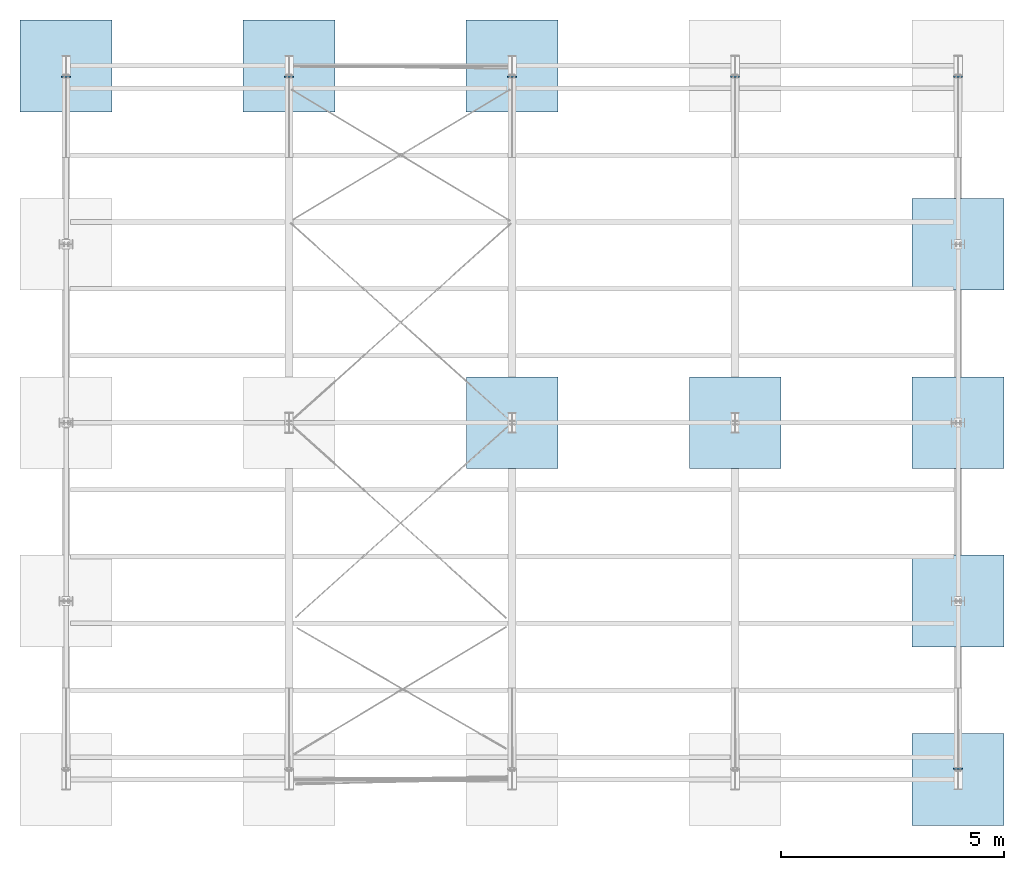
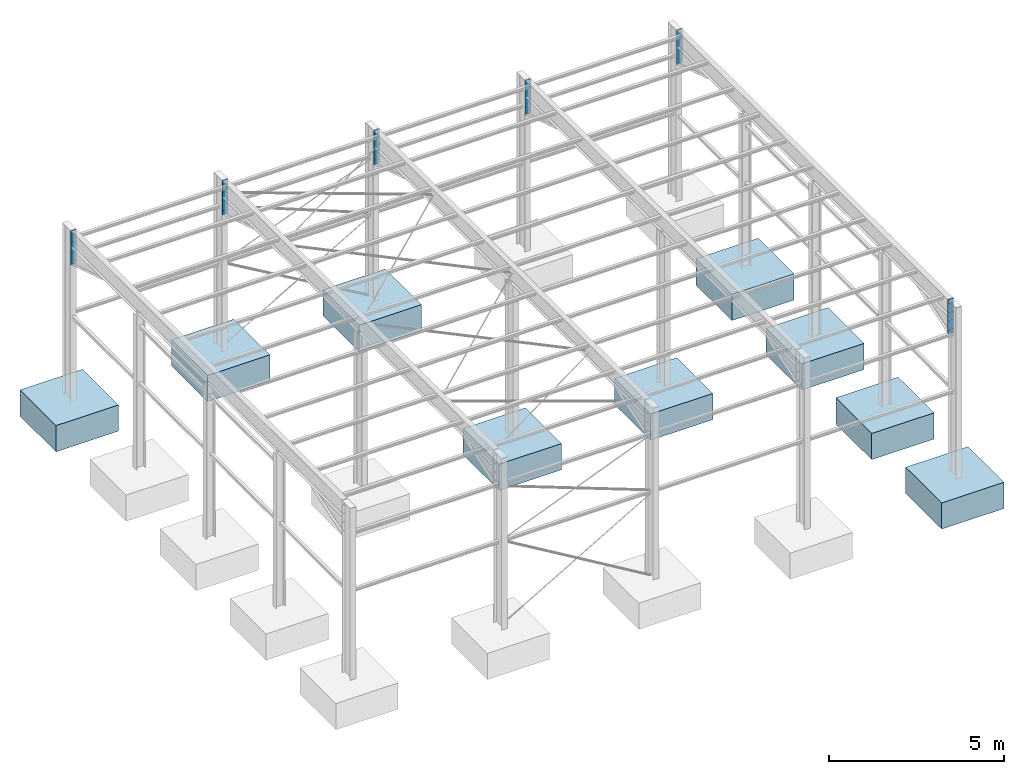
# Not in any storey, part 6 of 51: 9 slabs, 7 plates, 56 openings.
"""IFC4 model written with IfcOpenShell, lengths in feet."""

from ifc_helpers import new_model, entity, si_unit, converted_unit, direction, frame, origin, origin_with_axes, origin_2d_with_axis, place, context, subcontext, project, spatial, polyline, indexed_curve, circle, outline, extrude, material, layer, layer_set, type_object, element, save


model = new_model("IFC4")

# Units and contexts
model_context = context("Model", 3, precision=0.0001, world=origin(), true_north=direction((6.123233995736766e-17, 1.0)))
body_context = subcontext(model_context, "Body", "Model", "MODEL_VIEW")
ifc_project = project(units=[converted_unit("LENGTHUNIT", "FOOT", entity("IfcLengthMeasure", 0.3048), si_unit("LENGTHUNIT", "METRE"), dimensions=[1, 0, 0, 0, 0, 0, 0]), converted_unit("AREAUNIT", "SQUARE INCH", entity("IfcAreaMeasure", 0.0006451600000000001), si_unit("AREAUNIT", "SQUARE_METRE"), dimensions=[2, 0, 0, 0, 0, 0, 0]), converted_unit("PLANEANGLEUNIT", "DEGREE", entity("IfcPlaneAngleMeasure", 0.017453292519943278), si_unit("PLANEANGLEUNIT", "RADIAN"), dimensions=[0, 0, 0, 0, 0, 0, 0]), si_unit("VOLUMEUNIT", "CUBIC_METRE")], contexts=[model_context])

# Site
site_placement = place(None, origin())
site = spatial("IfcSite", under=ifc_project, at=site_placement, Name="Default", CompositionType="ELEMENT")

# Slabs
ifc_material_1 = material(Name="Concrete, Cast-in-Place gray", Category="Concrete")
slab_type = type_object("IfcSlabType", Name="Pile Cap-Rectangular:81\" x 81\" x 36\"", PredefinedType="BASESLAB", material=ifc_material_1)
slab_1_placement = place(site_placement, origin())
element("IfcSlab", 1, at=slab_1_placement, inside=site, type_object=slab_type, Name="Pile Cap-Rectangular:81\" x 81\" x 36\"", ObjectType="Pile Cap-Rectangular:81\" x 81\" x 36\"", PredefinedType="BASESLAB", context=body_context, shape_type="SweptSolid", body=[
    extrude(outline(indexed_curve([(-3.375, -3.375), (3.375, -3.375), (3.375, 3.375), (-3.375, 3.375), (-3.375, -3.375)], self_intersect=False)), frame((11.2383168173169, 57.94845552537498, -3.0), z_axis=(0.0, 0.0, 1.0), x_axis=(-1.0, 0.0, 0.0)), (0.0, 0.0, 1.0), 3.0),
])
slab_2_placement = place(site_placement, origin())
element("IfcSlab", 2, at=slab_2_placement, inside=site, type_object=slab_type, Name="Pile Cap-Rectangular:81\" x 81\" x 36\"", ObjectType="Pile Cap-Rectangular:81\" x 81\" x 36\"", PredefinedType="BASESLAB", context=body_context, shape_type="SweptSolid", body=[
    extrude(outline(indexed_curve([(-3.375, -3.375), (3.375, -3.375), (3.375, 3.375), (-3.375, 3.375), (-3.375, -3.375)], self_intersect=False)), frame((27.657936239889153, 57.94845552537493, -3.0), z_axis=(0.0, 0.0, 1.0), x_axis=(-1.0, 0.0, 0.0)), (0.0, 0.0, 1.0), 3.0),
])
slab_3_placement = place(site_placement, origin())
element("IfcSlab", 3, at=slab_3_placement, inside=site, type_object=slab_type, Name="Pile Cap-Rectangular:81\" x 81\" x 36\"", ObjectType="Pile Cap-Rectangular:81\" x 81\" x 36\"", PredefinedType="BASESLAB", context=body_context, shape_type="SweptSolid", body=[
    extrude(outline(indexed_curve([(-3.375, -3.375), (3.375, -3.375), (3.375, 3.375), (-3.375, 3.375), (-3.375, -3.375)], self_intersect=False)), frame((44.06213571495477, 57.94845552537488, -3.0), z_axis=(0.0, 0.0, 1.0), x_axis=(-1.0, 0.0, 0.0)), (0.0, 0.0, 1.0), 3.0),
])
slab_4_placement = place(site_placement, origin())
element("IfcSlab", 4, at=slab_4_placement, inside=site, type_object=slab_type, Name="Pile Cap-Rectangular:81\" x 81\" x 36\"", ObjectType="Pile Cap-Rectangular:81\" x 81\" x 36\"", PredefinedType="BASESLAB", context=body_context, shape_type="SweptSolid", body=[
    extrude(outline(indexed_curve([(-3.375, -3.375), (3.375, -3.375), (3.375, 3.374999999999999), (-3.375, 3.374999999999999), (-3.375, -3.375)], self_intersect=False)), frame((76.87053466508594, 5.455017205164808, -3.0), z_axis=(0.0, 0.0, 1.0), x_axis=(-1.0, 0.0, 0.0)), (0.0, 0.0, 1.0), 3.0),
])
slab_5_placement = place(site_placement, origin())
element("IfcSlab", 5, at=slab_5_placement, inside=site, type_object=slab_type, Name="Pile Cap-Rectangular:81\" x 81\" x 36\"", ObjectType="Pile Cap-Rectangular:81\" x 81\" x 36\"", PredefinedType="BASESLAB", context=body_context, shape_type="SweptSolid", body=[
    extrude(outline(indexed_curve([(-3.375, -3.375), (3.375, -3.375), (3.375, 3.375), (-3.375, 3.375), (-3.375, -3.375)], self_intersect=False)), frame((76.870534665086, 44.82509594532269, -3.0), z_axis=(0.0, 0.0, 1.0), x_axis=(-1.0, 0.0, 0.0)), (0.0, 0.0, 1.0), 3.0),
])
slab_6_placement = place(site_placement, origin())
element("IfcSlab", 6, at=slab_6_placement, inside=site, type_object=slab_type, Name="Pile Cap-Rectangular:81\" x 81\" x 36\"", ObjectType="Pile Cap-Rectangular:81\" x 81\" x 36\"", PredefinedType="BASESLAB", context=body_context, shape_type="SweptSolid", body=[
    extrude(outline(indexed_curve([(-3.375, -3.375), (3.375, -3.375), (3.375, 3.375), (-3.375, 3.375), (-3.375, -3.375)], self_intersect=False)), frame((76.87053466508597, 31.701736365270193, -3.0), z_axis=(0.0, 0.0, 1.0), x_axis=(-1.0, 0.0, 0.0)), (0.0, 0.0, 1.0), 3.0),
])
slab_7_placement = place(site_placement, origin())
element("IfcSlab", 7, at=slab_7_placement, inside=site, type_object=slab_type, Name="Pile Cap-Rectangular:81\" x 81\" x 36\"", ObjectType="Pile Cap-Rectangular:81\" x 81\" x 36\"", PredefinedType="BASESLAB", context=body_context, shape_type="SweptSolid", body=[
    extrude(outline(indexed_curve([(-3.375, -3.375), (3.375, -3.375), (3.375, 3.375), (-3.375, 3.375), (-3.375, -3.375)], self_intersect=False)), frame((76.87053466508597, 18.578376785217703, -3.0), z_axis=(0.0, 0.0, 1.0), x_axis=(-1.0, 0.0, 0.0)), (0.0, 0.0, 1.0), 3.0),
])
slab_8_placement = place(site_placement, origin())
element("IfcSlab", 8, at=slab_8_placement, inside=site, type_object=slab_type, Name="Pile Cap-Rectangular:81\" x 81\" x 36\"", ObjectType="Pile Cap-Rectangular:81\" x 81\" x 36\"", PredefinedType="BASESLAB", context=body_context, shape_type="SweptSolid", body=[
    extrude(outline(indexed_curve([(-3.375, -3.375), (3.375, -3.375), (3.375, 3.375), (-3.375, 3.375), (-3.375, -3.375)], self_intersect=False)), frame((44.0775556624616, 31.701736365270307, -3.0), z_axis=(0.0, 0.0, 1.0), x_axis=(-1.0, 0.0, 0.0)), (0.0, 0.0, 1.0), 3.0),
])
slab_9_placement = place(site_placement, origin())
element("IfcSlab", 9, at=slab_9_placement, inside=site, type_object=slab_type, Name="Pile Cap-Rectangular:81\" x 81\" x 36\"", ObjectType="Pile Cap-Rectangular:81\" x 81\" x 36\"", PredefinedType="BASESLAB", context=body_context, shape_type="SweptSolid", body=[
    extrude(outline(indexed_curve([(-3.375, -3.375), (3.375, -3.375), (3.375, 3.375), (-3.375, 3.375), (-3.375, -3.375)], self_intersect=False)), frame((60.481755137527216, 31.701736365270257, -3.0), z_axis=(0.0, 0.0, 1.0), x_axis=(-1.0, 0.0, 0.0)), (0.0, 0.0, 1.0), 3.0),
])

# Plate, openings
ifc_material_2 = material(Name="Dachdeckung - Blechdach")
ifc_layer = layer(ifc_material_2, 20.0)
ifc_layer_set = layer_set([ifc_layer], Name="Dachdeckung - Blechdach")
plate_1_placement = place(site_placement, frame((77.1790221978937, 6.28730066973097, 19.668635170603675), z_axis=(0.0, -1.0, 0.0), x_axis=(-1.0, 0.0, 0.0)))
plate_1 = element("IfcPlate", 10, at=plate_1_placement, inside=site, material=ifc_layer_set, Name="Endplate", ObjectType="Endplate", context=model_context, shape_type="SweptSolid", body=[
    extrude(outline(polyline([(0.0, 0.0), (0.6169750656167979, 0.0), (0.6169750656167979, 3.918766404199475), (0.0, 3.918766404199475), (0.0, 0.0)])), origin_with_axes(), (0.0, 0.0, 1.0), 0.06561679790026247),
])
opening_1_placement = place(plate_1_placement, frame((0.1626541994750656, 2.4606299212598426, 0.06725721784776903), z_axis=(0.0, 0.0, -1.0), x_axis=(1.0, 0.0, 0.0)))
element("IfcOpeningElement", 11, at=opening_1_placement, cuts=plate_1, ObjectType="Opening", context=model_context, shape_type="SweptSolid", body=[
    extrude(circle(Radius=0.03385744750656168, at=origin_2d_with_axis()), origin(), (0.0, 0.0, 1.0), 0.0688976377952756),
])
opening_2_placement = place(plate_1_placement, frame((0.4543208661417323, 2.4606299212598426, 0.06725721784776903), z_axis=(0.0, 0.0, -1.0), x_axis=(1.0, 0.0, 0.0)))
element("IfcOpeningElement", 12, at=opening_2_placement, cuts=plate_1, ObjectType="Opening", context=model_context, shape_type="SweptSolid", body=[
    extrude(circle(Radius=0.03385744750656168, at=origin_2d_with_axis()), origin(), (0.0, 0.0, 1.0), 0.0688976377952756),
])
opening_3_placement = place(plate_1_placement, frame((0.4543208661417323, 3.444881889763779, 0.06725721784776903), z_axis=(0.0, 0.0, -1.0), x_axis=(1.0, 0.0, 0.0)))
element("IfcOpeningElement", 13, at=opening_3_placement, cuts=plate_1, ObjectType="Opening", context=model_context, shape_type="SweptSolid", body=[
    extrude(circle(Radius=0.03385744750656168, at=origin_2d_with_axis()), origin(), (0.0, 0.0, 1.0), 0.0688976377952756),
])
opening_4_placement = place(plate_1_placement, frame((0.4543208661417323, 0.49212598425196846, 0.06725721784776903), z_axis=(0.0, 0.0, -1.0), x_axis=(1.0, 0.0, 0.0)))
element("IfcOpeningElement", 14, at=opening_4_placement, cuts=plate_1, ObjectType="Opening", context=model_context, shape_type="SweptSolid", body=[
    extrude(circle(Radius=0.03385744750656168, at=origin_2d_with_axis()), origin(), (0.0, 0.0, 1.0), 0.0688976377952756),
])
opening_5_placement = place(plate_1_placement, frame((0.4543208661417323, 1.4763779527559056, 0.06725721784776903), z_axis=(0.0, 0.0, -1.0), x_axis=(1.0, 0.0, 0.0)))
element("IfcOpeningElement", 15, at=opening_5_placement, cuts=plate_1, ObjectType="Opening", context=model_context, shape_type="SweptSolid", body=[
    extrude(circle(Radius=0.03385744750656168, at=origin_2d_with_axis()), origin(), (0.0, 0.0, 1.0), 0.0688976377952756),
])
opening_6_placement = place(plate_1_placement, frame((0.1626541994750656, 3.444881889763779, 0.06725721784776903), z_axis=(0.0, 0.0, -1.0), x_axis=(1.0, 0.0, 0.0)))
element("IfcOpeningElement", 16, at=opening_6_placement, cuts=plate_1, ObjectType="Opening", context=model_context, shape_type="SweptSolid", body=[
    extrude(circle(Radius=0.03385744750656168, at=origin_2d_with_axis()), origin(), (0.0, 0.0, 1.0), 0.0688976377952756),
])
opening_7_placement = place(plate_1_placement, frame((0.1626541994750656, 1.4763779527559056, 0.06725721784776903), z_axis=(0.0, 0.0, -1.0), x_axis=(1.0, 0.0, 0.0)))
element("IfcOpeningElement", 17, at=opening_7_placement, cuts=plate_1, ObjectType="Opening", context=model_context, shape_type="SweptSolid", body=[
    extrude(circle(Radius=0.03385744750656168, at=origin_2d_with_axis()), origin(), (0.0, 0.0, 1.0), 0.0688976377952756),
])
opening_8_placement = place(plate_1_placement, frame((0.1626541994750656, 0.49212598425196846, 0.06725721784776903), z_axis=(0.0, 0.0, -1.0), x_axis=(1.0, 0.0, 0.0)))
element("IfcOpeningElement", 18, at=opening_8_placement, cuts=plate_1, ObjectType="Opening", context=model_context, shape_type="SweptSolid", body=[
    extrude(circle(Radius=0.03385744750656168, at=origin_2d_with_axis()), origin(), (0.0, 0.0, 1.0), 0.0688976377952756),
])

plate_2_placement = place(site_placement, frame((27.349448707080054, 57.11617206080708, 19.668635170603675), z_axis=(0.0, 1.0, 0.0), x_axis=(1.0, 0.0, 0.0)))
plate_2 = element("IfcPlate", 19, at=plate_2_placement, inside=site, material=ifc_layer_set, Name="Endplate", ObjectType="Endplate", context=model_context, shape_type="SweptSolid", body=[
    extrude(outline(polyline([(0.0, 0.0), (0.6169750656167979, 0.0), (0.6169750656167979, 3.918766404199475), (0.0, 3.918766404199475), (0.0, 0.0)])), origin_with_axes(), (0.0, 0.0, 1.0), 0.06561679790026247),
])
opening_9_placement = place(plate_2_placement, frame((0.4543208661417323, 3.444881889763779, 0.06725721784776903), z_axis=(0.0, 0.0, -1.0), x_axis=(1.0, 0.0, 0.0)))
element("IfcOpeningElement", 20, at=opening_9_placement, cuts=plate_2, ObjectType="Opening", context=model_context, shape_type="SweptSolid", body=[
    extrude(circle(Radius=0.03385744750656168, at=origin_2d_with_axis()), origin(), (0.0, 0.0, 1.0), 0.0688976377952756),
])
opening_10_placement = place(plate_2_placement, frame((0.1626541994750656, 2.4606299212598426, 0.06725721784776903), z_axis=(0.0, 0.0, -1.0), x_axis=(1.0, 0.0, 0.0)))
element("IfcOpeningElement", 21, at=opening_10_placement, cuts=plate_2, ObjectType="Opening", context=model_context, shape_type="SweptSolid", body=[
    extrude(circle(Radius=0.03385744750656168, at=origin_2d_with_axis()), origin(), (0.0, 0.0, 1.0), 0.0688976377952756),
])
opening_11_placement = place(plate_2_placement, frame((0.4543208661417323, 2.4606299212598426, 0.06725721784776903), z_axis=(0.0, 0.0, -1.0), x_axis=(1.0, 0.0, 0.0)))
element("IfcOpeningElement", 22, at=opening_11_placement, cuts=plate_2, ObjectType="Opening", context=model_context, shape_type="SweptSolid", body=[
    extrude(circle(Radius=0.03385744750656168, at=origin_2d_with_axis()), origin(), (0.0, 0.0, 1.0), 0.0688976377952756),
])
opening_12_placement = place(plate_2_placement, frame((0.4543208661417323, 1.4763779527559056, 0.06725721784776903), z_axis=(0.0, 0.0, -1.0), x_axis=(1.0, 0.0, 0.0)))
element("IfcOpeningElement", 23, at=opening_12_placement, cuts=plate_2, ObjectType="Opening", context=model_context, shape_type="SweptSolid", body=[
    extrude(circle(Radius=0.03385744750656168, at=origin_2d_with_axis()), origin(), (0.0, 0.0, 1.0), 0.0688976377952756),
])
opening_13_placement = place(plate_2_placement, frame((0.1626541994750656, 1.4763779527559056, 0.06725721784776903), z_axis=(0.0, 0.0, -1.0), x_axis=(1.0, 0.0, 0.0)))
element("IfcOpeningElement", 24, at=opening_13_placement, cuts=plate_2, ObjectType="Opening", context=model_context, shape_type="SweptSolid", body=[
    extrude(circle(Radius=0.03385744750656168, at=origin_2d_with_axis()), origin(), (0.0, 0.0, 1.0), 0.0688976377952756),
])
opening_14_placement = place(plate_2_placement, frame((0.4543208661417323, 0.49212598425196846, 0.06725721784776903), z_axis=(0.0, 0.0, -1.0), x_axis=(1.0, 0.0, 0.0)))
element("IfcOpeningElement", 25, at=opening_14_placement, cuts=plate_2, ObjectType="Opening", context=model_context, shape_type="SweptSolid", body=[
    extrude(circle(Radius=0.03385744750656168, at=origin_2d_with_axis()), origin(), (0.0, 0.0, 1.0), 0.0688976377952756),
])
opening_15_placement = place(plate_2_placement, frame((0.1626541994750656, 0.49212598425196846, 0.06725721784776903), z_axis=(0.0, 0.0, -1.0), x_axis=(1.0, 0.0, 0.0)))
element("IfcOpeningElement", 26, at=opening_15_placement, cuts=plate_2, ObjectType="Opening", context=model_context, shape_type="SweptSolid", body=[
    extrude(circle(Radius=0.03385744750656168, at=origin_2d_with_axis()), origin(), (0.0, 0.0, 1.0), 0.0688976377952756),
])
opening_16_placement = place(plate_2_placement, frame((0.1626541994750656, 3.444881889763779, 0.06725721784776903), z_axis=(0.0, 0.0, -1.0), x_axis=(1.0, 0.0, 0.0)))
element("IfcOpeningElement", 27, at=opening_16_placement, cuts=plate_2, ObjectType="Opening", context=model_context, shape_type="SweptSolid", body=[
    extrude(circle(Radius=0.03385744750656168, at=origin_2d_with_axis()), origin(), (0.0, 0.0, 1.0), 0.0688976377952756),
])

plate_3_placement = place(site_placement, frame((43.75364818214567, 57.11617206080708, 19.668635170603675), z_axis=(0.0, 1.0, 0.0), x_axis=(1.0, 0.0, 0.0)))
plate_3 = element("IfcPlate", 28, at=plate_3_placement, inside=site, material=ifc_layer_set, Name="Endplate", ObjectType="Endplate", context=model_context, shape_type="SweptSolid", body=[
    extrude(outline(polyline([(0.0, 0.0), (0.6169750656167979, 0.0), (0.6169750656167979, 3.918766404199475), (0.0, 3.918766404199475), (0.0, 0.0)])), origin_with_axes(), (0.0, 0.0, 1.0), 0.06561679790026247),
])
opening_17_placement = place(plate_3_placement, frame((0.4543208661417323, 2.4606299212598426, 0.06725721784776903), z_axis=(0.0, 0.0, -1.0), x_axis=(1.0, 0.0, 0.0)))
element("IfcOpeningElement", 29, at=opening_17_placement, cuts=plate_3, ObjectType="Opening", context=model_context, shape_type="SweptSolid", body=[
    extrude(circle(Radius=0.03385744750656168, at=origin_2d_with_axis()), origin(), (0.0, 0.0, 1.0), 0.0688976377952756),
])
opening_18_placement = place(plate_3_placement, frame((0.4543208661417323, 0.49212598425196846, 0.06725721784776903), z_axis=(0.0, 0.0, -1.0), x_axis=(1.0, 0.0, 0.0)))
element("IfcOpeningElement", 30, at=opening_18_placement, cuts=plate_3, ObjectType="Opening", context=model_context, shape_type="SweptSolid", body=[
    extrude(circle(Radius=0.03385744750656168, at=origin_2d_with_axis()), origin(), (0.0, 0.0, 1.0), 0.0688976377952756),
])
opening_19_placement = place(plate_3_placement, frame((0.1626541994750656, 3.444881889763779, 0.06725721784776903), z_axis=(0.0, 0.0, -1.0), x_axis=(1.0, 0.0, 0.0)))
element("IfcOpeningElement", 31, at=opening_19_placement, cuts=plate_3, ObjectType="Opening", context=model_context, shape_type="SweptSolid", body=[
    extrude(circle(Radius=0.03385744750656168, at=origin_2d_with_axis()), origin(), (0.0, 0.0, 1.0), 0.0688976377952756),
])
opening_20_placement = place(plate_3_placement, frame((0.1626541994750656, 1.4763779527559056, 0.06725721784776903), z_axis=(0.0, 0.0, -1.0), x_axis=(1.0, 0.0, 0.0)))
element("IfcOpeningElement", 32, at=opening_20_placement, cuts=plate_3, ObjectType="Opening", context=model_context, shape_type="SweptSolid", body=[
    extrude(circle(Radius=0.03385744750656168, at=origin_2d_with_axis()), origin(), (0.0, 0.0, 1.0), 0.0688976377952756),
])
opening_21_placement = place(plate_3_placement, frame((0.1626541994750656, 0.49212598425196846, 0.06725721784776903), z_axis=(0.0, 0.0, -1.0), x_axis=(1.0, 0.0, 0.0)))
element("IfcOpeningElement", 33, at=opening_21_placement, cuts=plate_3, ObjectType="Opening", context=model_context, shape_type="SweptSolid", body=[
    extrude(circle(Radius=0.03385744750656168, at=origin_2d_with_axis()), origin(), (0.0, 0.0, 1.0), 0.0688976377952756),
])
opening_22_placement = place(plate_3_placement, frame((0.1626541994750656, 2.4606299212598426, 0.06725721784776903), z_axis=(0.0, 0.0, -1.0), x_axis=(1.0, 0.0, 0.0)))
element("IfcOpeningElement", 34, at=opening_22_placement, cuts=plate_3, ObjectType="Opening", context=model_context, shape_type="SweptSolid", body=[
    extrude(circle(Radius=0.03385744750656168, at=origin_2d_with_axis()), origin(), (0.0, 0.0, 1.0), 0.0688976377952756),
])
opening_23_placement = place(plate_3_placement, frame((0.4543208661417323, 3.444881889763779, 0.06725721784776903), z_axis=(0.0, 0.0, -1.0), x_axis=(1.0, 0.0, 0.0)))
element("IfcOpeningElement", 35, at=opening_23_placement, cuts=plate_3, ObjectType="Opening", context=model_context, shape_type="SweptSolid", body=[
    extrude(circle(Radius=0.03385744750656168, at=origin_2d_with_axis()), origin(), (0.0, 0.0, 1.0), 0.0688976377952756),
])
opening_24_placement = place(plate_3_placement, frame((0.4543208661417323, 1.4763779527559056, 0.06725721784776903), z_axis=(0.0, 0.0, -1.0), x_axis=(1.0, 0.0, 0.0)))
element("IfcOpeningElement", 36, at=opening_24_placement, cuts=plate_3, ObjectType="Opening", context=model_context, shape_type="SweptSolid", body=[
    extrude(circle(Radius=0.03385744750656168, at=origin_2d_with_axis()), origin(), (0.0, 0.0, 1.0), 0.0688976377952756),
])

plate_4_placement = place(site_placement, frame((60.157847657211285, 57.11617206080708, 19.668635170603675), z_axis=(0.0, 1.0, 0.0), x_axis=(1.0, 0.0, 0.0)))
plate_4 = element("IfcPlate", 37, at=plate_4_placement, inside=site, material=ifc_layer_set, Name="Endplate", ObjectType="Endplate", context=model_context, shape_type="SweptSolid", body=[
    extrude(outline(polyline([(0.0, 0.0), (0.6169750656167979, 0.0), (0.6169750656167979, 3.918766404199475), (0.0, 3.918766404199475), (0.0, 0.0)])), origin_with_axes(), (0.0, 0.0, 1.0), 0.06561679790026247),
])
opening_25_placement = place(plate_4_placement, frame((0.1626541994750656, 1.4763779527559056, 0.06725721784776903), z_axis=(0.0, 0.0, -1.0), x_axis=(1.0, 0.0, 0.0)))
element("IfcOpeningElement", 38, at=opening_25_placement, cuts=plate_4, ObjectType="Opening", context=model_context, shape_type="SweptSolid", body=[
    extrude(circle(Radius=0.03385744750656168, at=origin_2d_with_axis()), origin(), (0.0, 0.0, 1.0), 0.0688976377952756),
])
opening_26_placement = place(plate_4_placement, frame((0.4543208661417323, 2.4606299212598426, 0.06725721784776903), z_axis=(0.0, 0.0, -1.0), x_axis=(1.0, 0.0, 0.0)))
element("IfcOpeningElement", 39, at=opening_26_placement, cuts=plate_4, ObjectType="Opening", context=model_context, shape_type="SweptSolid", body=[
    extrude(circle(Radius=0.03385744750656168, at=origin_2d_with_axis()), origin(), (0.0, 0.0, 1.0), 0.0688976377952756),
])
opening_27_placement = place(plate_4_placement, frame((0.4543208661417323, 3.444881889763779, 0.06725721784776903), z_axis=(0.0, 0.0, -1.0), x_axis=(1.0, 0.0, 0.0)))
element("IfcOpeningElement", 40, at=opening_27_placement, cuts=plate_4, ObjectType="Opening", context=model_context, shape_type="SweptSolid", body=[
    extrude(circle(Radius=0.03385744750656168, at=origin_2d_with_axis()), origin(), (0.0, 0.0, 1.0), 0.0688976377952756),
])
opening_28_placement = place(plate_4_placement, frame((0.1626541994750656, 0.49212598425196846, 0.06725721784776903), z_axis=(0.0, 0.0, -1.0), x_axis=(1.0, 0.0, 0.0)))
element("IfcOpeningElement", 41, at=opening_28_placement, cuts=plate_4, ObjectType="Opening", context=model_context, shape_type="SweptSolid", body=[
    extrude(circle(Radius=0.03385744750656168, at=origin_2d_with_axis()), origin(), (0.0, 0.0, 1.0), 0.0688976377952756),
])
opening_29_placement = place(plate_4_placement, frame((0.1626541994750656, 3.444881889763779, 0.06725721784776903), z_axis=(0.0, 0.0, -1.0), x_axis=(1.0, 0.0, 0.0)))
element("IfcOpeningElement", 42, at=opening_29_placement, cuts=plate_4, ObjectType="Opening", context=model_context, shape_type="SweptSolid", body=[
    extrude(circle(Radius=0.03385744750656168, at=origin_2d_with_axis()), origin(), (0.0, 0.0, 1.0), 0.0688976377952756),
])
opening_30_placement = place(plate_4_placement, frame((0.4543208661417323, 0.49212598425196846, 0.06725721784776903), z_axis=(0.0, 0.0, -1.0), x_axis=(1.0, 0.0, 0.0)))
element("IfcOpeningElement", 43, at=opening_30_placement, cuts=plate_4, ObjectType="Opening", context=model_context, shape_type="SweptSolid", body=[
    extrude(circle(Radius=0.03385744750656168, at=origin_2d_with_axis()), origin(), (0.0, 0.0, 1.0), 0.0688976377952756),
])
opening_31_placement = place(plate_4_placement, frame((0.1626541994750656, 2.4606299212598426, 0.06725721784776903), z_axis=(0.0, 0.0, -1.0), x_axis=(1.0, 0.0, 0.0)))
element("IfcOpeningElement", 44, at=opening_31_placement, cuts=plate_4, ObjectType="Opening", context=model_context, shape_type="SweptSolid", body=[
    extrude(circle(Radius=0.03385744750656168, at=origin_2d_with_axis()), origin(), (0.0, 0.0, 1.0), 0.0688976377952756),
])
opening_32_placement = place(plate_4_placement, frame((0.4543208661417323, 1.4763779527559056, 0.06725721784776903), z_axis=(0.0, 0.0, -1.0), x_axis=(1.0, 0.0, 0.0)))
element("IfcOpeningElement", 45, at=opening_32_placement, cuts=plate_4, ObjectType="Opening", context=model_context, shape_type="SweptSolid", body=[
    extrude(circle(Radius=0.03385744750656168, at=origin_2d_with_axis()), origin(), (0.0, 0.0, 1.0), 0.0688976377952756),
])

plate_5_placement = place(site_placement, frame((77.1790221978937, 6.28730066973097, 19.668635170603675), z_axis=(0.0, -1.0, 0.0), x_axis=(-1.0, 0.0, 0.0)))
plate_5 = element("IfcPlate", 46, at=plate_5_placement, inside=site, material=ifc_layer_set, Name="Endplate", ObjectType="Endplate", context=model_context, shape_type="SweptSolid", body=[
    extrude(outline(polyline([(0.0, 0.0), (0.6169750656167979, 0.0), (0.6169750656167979, 3.918766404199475), (0.0, 3.918766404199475), (0.0, 0.0)])), origin_with_axes(), (0.0, 0.0, 1.0), 0.06561679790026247),
])
opening_33_placement = place(plate_5_placement, frame((0.4543208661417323, 1.4763779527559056, 0.06725721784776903), z_axis=(0.0, 0.0, -1.0), x_axis=(1.0, 0.0, 0.0)))
element("IfcOpeningElement", 47, at=opening_33_placement, cuts=plate_5, ObjectType="Opening", context=model_context, shape_type="SweptSolid", body=[
    extrude(circle(Radius=0.03385744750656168, at=origin_2d_with_axis()), origin(), (0.0, 0.0, 1.0), 0.0688976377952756),
])
opening_34_placement = place(plate_5_placement, frame((0.1626541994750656, 1.4763779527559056, 0.06725721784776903), z_axis=(0.0, 0.0, -1.0), x_axis=(1.0, 0.0, 0.0)))
element("IfcOpeningElement", 48, at=opening_34_placement, cuts=plate_5, ObjectType="Opening", context=model_context, shape_type="SweptSolid", body=[
    extrude(circle(Radius=0.03385744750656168, at=origin_2d_with_axis()), origin(), (0.0, 0.0, 1.0), 0.0688976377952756),
])
opening_35_placement = place(plate_5_placement, frame((0.1626541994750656, 0.49212598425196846, 0.06725721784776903), z_axis=(0.0, 0.0, -1.0), x_axis=(1.0, 0.0, 0.0)))
element("IfcOpeningElement", 49, at=opening_35_placement, cuts=plate_5, ObjectType="Opening", context=model_context, shape_type="SweptSolid", body=[
    extrude(circle(Radius=0.03385744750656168, at=origin_2d_with_axis()), origin(), (0.0, 0.0, 1.0), 0.0688976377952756),
])
opening_36_placement = place(plate_5_placement, frame((0.1626541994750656, 3.444881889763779, 0.06725721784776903), z_axis=(0.0, 0.0, -1.0), x_axis=(1.0, 0.0, 0.0)))
element("IfcOpeningElement", 50, at=opening_36_placement, cuts=plate_5, ObjectType="Opening", context=model_context, shape_type="SweptSolid", body=[
    extrude(circle(Radius=0.03385744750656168, at=origin_2d_with_axis()), origin(), (0.0, 0.0, 1.0), 0.0688976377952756),
])
opening_37_placement = place(plate_5_placement, frame((0.4543208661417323, 3.444881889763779, 0.06725721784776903), z_axis=(0.0, 0.0, -1.0), x_axis=(1.0, 0.0, 0.0)))
element("IfcOpeningElement", 51, at=opening_37_placement, cuts=plate_5, ObjectType="Opening", context=model_context, shape_type="SweptSolid", body=[
    extrude(circle(Radius=0.03385744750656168, at=origin_2d_with_axis()), origin(), (0.0, 0.0, 1.0), 0.0688976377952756),
])
opening_38_placement = place(plate_5_placement, frame((0.1626541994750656, 2.4606299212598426, 0.06725721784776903), z_axis=(0.0, 0.0, -1.0), x_axis=(1.0, 0.0, 0.0)))
element("IfcOpeningElement", 52, at=opening_38_placement, cuts=plate_5, ObjectType="Opening", context=model_context, shape_type="SweptSolid", body=[
    extrude(circle(Radius=0.03385744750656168, at=origin_2d_with_axis()), origin(), (0.0, 0.0, 1.0), 0.0688976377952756),
])
opening_39_placement = place(plate_5_placement, frame((0.4543208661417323, 2.4606299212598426, 0.06725721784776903), z_axis=(0.0, 0.0, -1.0), x_axis=(1.0, 0.0, 0.0)))
element("IfcOpeningElement", 53, at=opening_39_placement, cuts=plate_5, ObjectType="Opening", context=model_context, shape_type="SweptSolid", body=[
    extrude(circle(Radius=0.03385744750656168, at=origin_2d_with_axis()), origin(), (0.0, 0.0, 1.0), 0.0688976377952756),
])
opening_40_placement = place(plate_5_placement, frame((0.4543208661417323, 0.49212598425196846, 0.06725721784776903), z_axis=(0.0, 0.0, -1.0), x_axis=(1.0, 0.0, 0.0)))
element("IfcOpeningElement", 54, at=opening_40_placement, cuts=plate_5, ObjectType="Opening", context=model_context, shape_type="SweptSolid", body=[
    extrude(circle(Radius=0.03385744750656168, at=origin_2d_with_axis()), origin(), (0.0, 0.0, 1.0), 0.0688976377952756),
])

plate_6_placement = place(site_placement, frame((76.5620471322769, 57.11617206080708, 19.668635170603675), z_axis=(0.0, 1.0, 0.0), x_axis=(1.0, 0.0, 0.0)))
plate_6 = element("IfcPlate", 55, at=plate_6_placement, inside=site, material=ifc_layer_set, Name="Endplate", ObjectType="Endplate", context=model_context, shape_type="SweptSolid", body=[
    extrude(outline(polyline([(0.0, 0.0), (0.6169750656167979, 0.0), (0.6169750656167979, 3.918766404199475), (0.0, 3.918766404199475), (0.0, 0.0)])), origin_with_axes(), (0.0, 0.0, 1.0), 0.06561679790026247),
])
opening_41_placement = place(plate_6_placement, frame((0.1626541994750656, 3.444881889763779, 0.06725721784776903), z_axis=(0.0, 0.0, -1.0), x_axis=(1.0, 0.0, 0.0)))
element("IfcOpeningElement", 56, at=opening_41_placement, cuts=plate_6, ObjectType="Opening", context=model_context, shape_type="SweptSolid", body=[
    extrude(circle(Radius=0.03385744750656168, at=origin_2d_with_axis()), origin(), (0.0, 0.0, 1.0), 0.0688976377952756),
])
opening_42_placement = place(plate_6_placement, frame((0.1626541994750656, 2.4606299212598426, 0.06725721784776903), z_axis=(0.0, 0.0, -1.0), x_axis=(1.0, 0.0, 0.0)))
element("IfcOpeningElement", 57, at=opening_42_placement, cuts=plate_6, ObjectType="Opening", context=model_context, shape_type="SweptSolid", body=[
    extrude(circle(Radius=0.03385744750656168, at=origin_2d_with_axis()), origin(), (0.0, 0.0, 1.0), 0.0688976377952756),
])
opening_43_placement = place(plate_6_placement, frame((0.1626541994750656, 0.49212598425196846, 0.06725721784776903), z_axis=(0.0, 0.0, -1.0), x_axis=(1.0, 0.0, 0.0)))
element("IfcOpeningElement", 58, at=opening_43_placement, cuts=plate_6, ObjectType="Opening", context=model_context, shape_type="SweptSolid", body=[
    extrude(circle(Radius=0.03385744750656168, at=origin_2d_with_axis()), origin(), (0.0, 0.0, 1.0), 0.0688976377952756),
])
opening_44_placement = place(plate_6_placement, frame((0.4543208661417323, 0.49212598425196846, 0.06725721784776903), z_axis=(0.0, 0.0, -1.0), x_axis=(1.0, 0.0, 0.0)))
element("IfcOpeningElement", 59, at=opening_44_placement, cuts=plate_6, ObjectType="Opening", context=model_context, shape_type="SweptSolid", body=[
    extrude(circle(Radius=0.03385744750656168, at=origin_2d_with_axis()), origin(), (0.0, 0.0, 1.0), 0.0688976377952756),
])
opening_45_placement = place(plate_6_placement, frame((0.1626541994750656, 1.4763779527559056, 0.06725721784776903), z_axis=(0.0, 0.0, -1.0), x_axis=(1.0, 0.0, 0.0)))
element("IfcOpeningElement", 60, at=opening_45_placement, cuts=plate_6, ObjectType="Opening", context=model_context, shape_type="SweptSolid", body=[
    extrude(circle(Radius=0.03385744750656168, at=origin_2d_with_axis()), origin(), (0.0, 0.0, 1.0), 0.0688976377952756),
])
opening_46_placement = place(plate_6_placement, frame((0.4543208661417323, 1.4763779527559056, 0.06725721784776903), z_axis=(0.0, 0.0, -1.0), x_axis=(1.0, 0.0, 0.0)))
element("IfcOpeningElement", 61, at=opening_46_placement, cuts=plate_6, ObjectType="Opening", context=model_context, shape_type="SweptSolid", body=[
    extrude(circle(Radius=0.03385744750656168, at=origin_2d_with_axis()), origin(), (0.0, 0.0, 1.0), 0.0688976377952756),
])
opening_47_placement = place(plate_6_placement, frame((0.4543208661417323, 2.4606299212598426, 0.06725721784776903), z_axis=(0.0, 0.0, -1.0), x_axis=(1.0, 0.0, 0.0)))
element("IfcOpeningElement", 62, at=opening_47_placement, cuts=plate_6, ObjectType="Opening", context=model_context, shape_type="SweptSolid", body=[
    extrude(circle(Radius=0.03385744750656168, at=origin_2d_with_axis()), origin(), (0.0, 0.0, 1.0), 0.0688976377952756),
])
opening_48_placement = place(plate_6_placement, frame((0.4543208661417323, 3.444881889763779, 0.06725721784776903), z_axis=(0.0, 0.0, -1.0), x_axis=(1.0, 0.0, 0.0)))
element("IfcOpeningElement", 63, at=opening_48_placement, cuts=plate_6, ObjectType="Opening", context=model_context, shape_type="SweptSolid", body=[
    extrude(circle(Radius=0.03385744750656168, at=origin_2d_with_axis()), origin(), (0.0, 0.0, 1.0), 0.0688976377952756),
])

plate_7_placement = place(site_placement, frame((10.945249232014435, 57.11617206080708, 19.668635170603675), z_axis=(0.0, 1.0, 0.0), x_axis=(1.0, 0.0, 0.0)))
plate_7 = element("IfcPlate", 64, at=plate_7_placement, inside=site, material=ifc_layer_set, Name="Endplate", ObjectType="Endplate", context=model_context, shape_type="SweptSolid", body=[
    extrude(outline(polyline([(0.0, 0.0), (0.6169750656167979, 0.0), (0.6169750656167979, 3.918766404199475), (0.0, 3.918766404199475), (0.0, 0.0)])), origin_with_axes(), (0.0, 0.0, 1.0), 0.06561679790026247),
])
opening_49_placement = place(plate_7_placement, frame((0.4543208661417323, 0.49212598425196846, 0.06725721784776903), z_axis=(0.0, 0.0, -1.0), x_axis=(1.0, 0.0, 0.0)))
element("IfcOpeningElement", 65, at=opening_49_placement, cuts=plate_7, ObjectType="Opening", context=model_context, shape_type="SweptSolid", body=[
    extrude(circle(Radius=0.03385744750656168, at=origin_2d_with_axis()), origin(), (0.0, 0.0, 1.0), 0.0688976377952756),
])
opening_50_placement = place(plate_7_placement, frame((0.4543208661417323, 1.4763779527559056, 0.06725721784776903), z_axis=(0.0, 0.0, -1.0), x_axis=(1.0, 0.0, 0.0)))
element("IfcOpeningElement", 66, at=opening_50_placement, cuts=plate_7, ObjectType="Opening", context=model_context, shape_type="SweptSolid", body=[
    extrude(circle(Radius=0.03385744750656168, at=origin_2d_with_axis()), origin(), (0.0, 0.0, 1.0), 0.0688976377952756),
])
opening_51_placement = place(plate_7_placement, frame((0.1626541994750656, 1.4763779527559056, 0.06725721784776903), z_axis=(0.0, 0.0, -1.0), x_axis=(1.0, 0.0, 0.0)))
element("IfcOpeningElement", 67, at=opening_51_placement, cuts=plate_7, ObjectType="Opening", context=model_context, shape_type="SweptSolid", body=[
    extrude(circle(Radius=0.03385744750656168, at=origin_2d_with_axis()), origin(), (0.0, 0.0, 1.0), 0.0688976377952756),
])
opening_52_placement = place(plate_7_placement, frame((0.4543208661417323, 3.444881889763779, 0.06725721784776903), z_axis=(0.0, 0.0, -1.0), x_axis=(1.0, 0.0, 0.0)))
element("IfcOpeningElement", 68, at=opening_52_placement, cuts=plate_7, ObjectType="Opening", context=model_context, shape_type="SweptSolid", body=[
    extrude(circle(Radius=0.03385744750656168, at=origin_2d_with_axis()), origin(), (0.0, 0.0, 1.0), 0.0688976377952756),
])
opening_53_placement = place(plate_7_placement, frame((0.1626541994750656, 0.49212598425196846, 0.06725721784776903), z_axis=(0.0, 0.0, -1.0), x_axis=(1.0, 0.0, 0.0)))
element("IfcOpeningElement", 69, at=opening_53_placement, cuts=plate_7, ObjectType="Opening", context=model_context, shape_type="SweptSolid", body=[
    extrude(circle(Radius=0.03385744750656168, at=origin_2d_with_axis()), origin(), (0.0, 0.0, 1.0), 0.0688976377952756),
])
opening_54_placement = place(plate_7_placement, frame((0.1626541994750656, 3.444881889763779, 0.06725721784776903), z_axis=(0.0, 0.0, -1.0), x_axis=(1.0, 0.0, 0.0)))
element("IfcOpeningElement", 70, at=opening_54_placement, cuts=plate_7, ObjectType="Opening", context=model_context, shape_type="SweptSolid", body=[
    extrude(circle(Radius=0.03385744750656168, at=origin_2d_with_axis()), origin(), (0.0, 0.0, 1.0), 0.0688976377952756),
])
opening_55_placement = place(plate_7_placement, frame((0.1626541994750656, 2.4606299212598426, 0.06725721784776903), z_axis=(0.0, 0.0, -1.0), x_axis=(1.0, 0.0, 0.0)))
element("IfcOpeningElement", 71, at=opening_55_placement, cuts=plate_7, ObjectType="Opening", context=model_context, shape_type="SweptSolid", body=[
    extrude(circle(Radius=0.03385744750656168, at=origin_2d_with_axis()), origin(), (0.0, 0.0, 1.0), 0.0688976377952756),
])
opening_56_placement = place(plate_7_placement, frame((0.4543208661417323, 2.4606299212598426, 0.06725721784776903), z_axis=(0.0, 0.0, -1.0), x_axis=(1.0, 0.0, 0.0)))
element("IfcOpeningElement", 72, at=opening_56_placement, cuts=plate_7, ObjectType="Opening", context=model_context, shape_type="SweptSolid", body=[
    extrude(circle(Radius=0.03385744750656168, at=origin_2d_with_axis()), origin(), (0.0, 0.0, 1.0), 0.0688976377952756),
])

save(model, "model.ifc")
